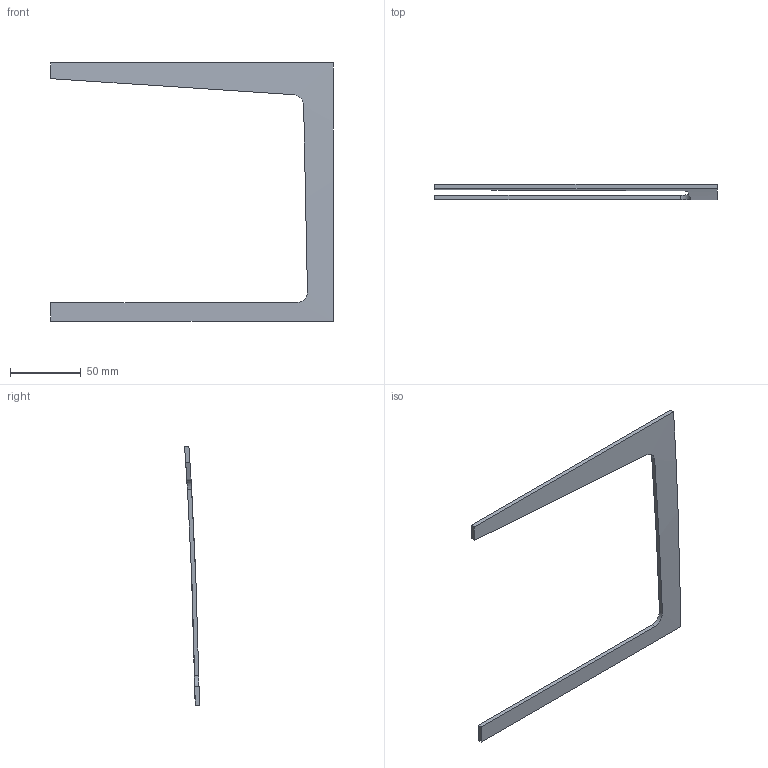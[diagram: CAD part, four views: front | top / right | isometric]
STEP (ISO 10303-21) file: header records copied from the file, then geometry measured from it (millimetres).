
FILE_DESCRIPTION(('Open CASCADE Model'),'2;1');
FILE_NAME('Open CASCADE Shape Model','2026-11-03T04:29:29',('Author'),( 'Open CASCADE'),'Open CASCADE STEP processor 7.8','Open CASCADE 7.8' ,'Unknown');
FILE_SCHEMA(('AUTOMOTIVE_DESIGN { 1 0 10303 214 1 1 1 1 }'));
Length unit declared in the file: millimetre
Products named in the file (1): Open CASCADE STEP translator 7.8 8
Bounding box: 200 x 10.49 x 183 mm (x, y, z)
Volume: 26666.9 mm3; surface area: 21367.1 mm2
Topology: 1 solids, 1 shells, 13 faces, 33 edges, 22 vertices
Faces by surface type: plane 8, cylinder 3, bspline 2
Entity records: 1551 total; most frequent: CARTESIAN_POINT 1000, B_SPLINE_CURVE_WITH_KNOTS 67, ORIENTED_EDGE 66, PCURVE 66, DEFINITIONAL_REPRESENTATION 66, DIRECTION 56, EDGE_CURVE 33, SURFACE_CURVE 33
